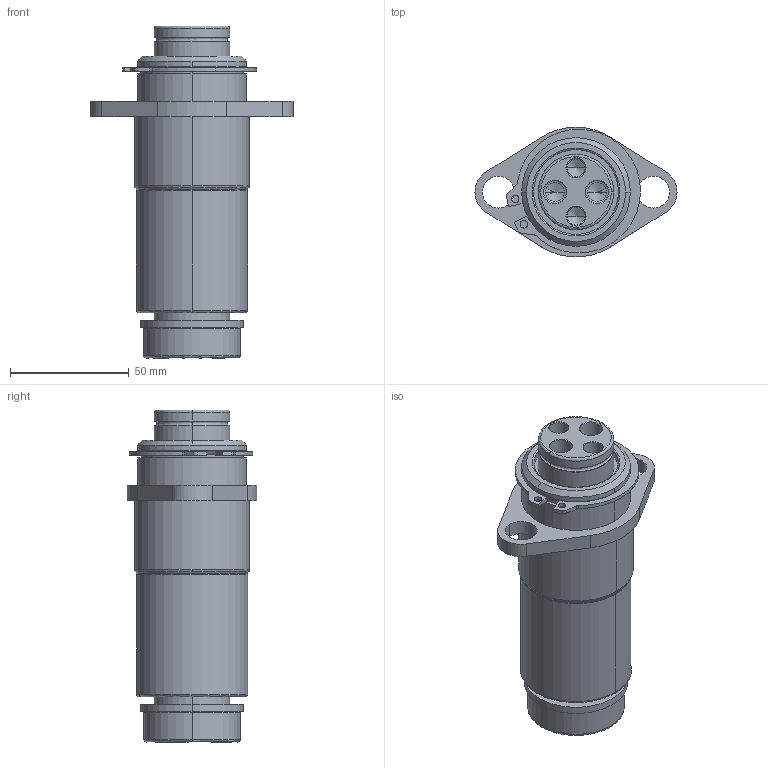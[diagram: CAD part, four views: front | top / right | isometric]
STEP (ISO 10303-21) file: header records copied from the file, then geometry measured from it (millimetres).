
FILE_DESCRIPTION (( 'STEP AP214' ), '1' );
FILE_NAME ('GK120-N4-1-BP-E-XXX.STEP', '2020-09-21T16:03:19', ( '' ), ( '' ), 'SwSTEP 2.0', 'SolidWorks 2017', '' );
FILE_SCHEMA (( 'AUTOMOTIVE_DESIGN' ));
Length unit declared in the file: inch
Products named in the file (7): GK120-E-XXX-GuidePin; RetainingRing; GK120-N4-1-BP-E-XXX; GK1.25-N4-1-BP-Base; GK120-DampeningWasher
Assembly tree (6 placements, depth 3):
  GK120-N4-1-BP-E-XXX
    GK1.25-N4-1-BP-Base
      GK1.25-N4-1-BP-Base
      RetainingRing
    GK120-E-XXX-GuidePin
      GK120-E-XXX-GuidePin
      GK120-DampeningWasher
Bounding box: 85.09 x 54.52 x 139.7 mm (x, y, z)
Volume: 220868 mm3; surface area: 54879.2 mm2
Topology: 4 solids, 4 shells, 153 faces, 353 edges, 214 vertices
Faces by surface type: cylinder 69, bspline 30, cone 30, plane 24
Entity records: 5947 total; most frequent: CARTESIAN_POINT 2093, DIRECTION 763, ORIENTED_EDGE 690, EDGE_CURVE 345, AXIS2_PLACEMENT_3D 314, VERTEX_POINT 214, CIRCLE 180, EDGE_LOOP 179
